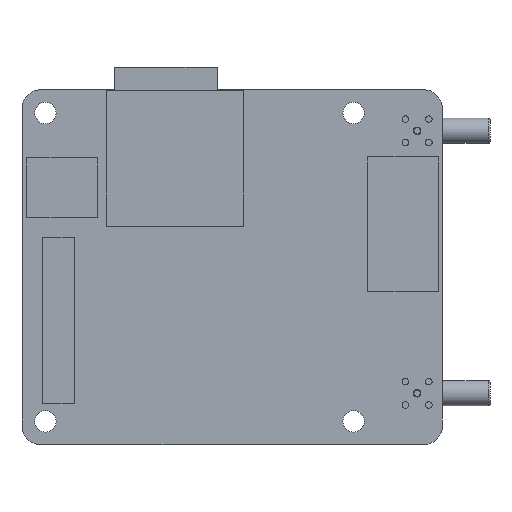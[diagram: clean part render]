
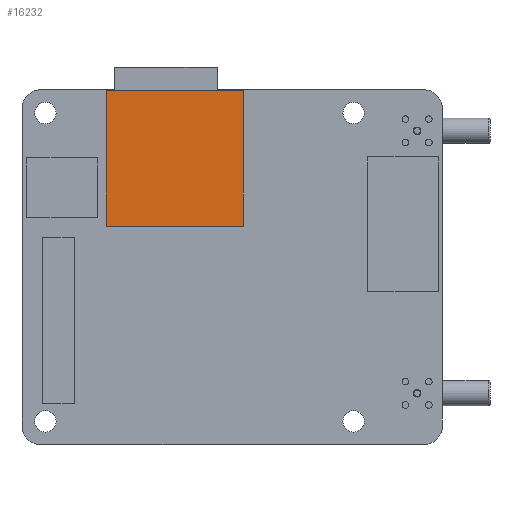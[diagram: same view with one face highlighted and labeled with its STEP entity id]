
A CAD part, front view. The second image highlights one B-rep face of the part: STEP entity #16232.
In plain terms, the highlighted planar face has unit normal (0, -1, 0).
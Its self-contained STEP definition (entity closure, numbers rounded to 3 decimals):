
#12137=DIRECTION('',(-1.,0.,0.));
#12138=VECTOR('',#12137,14.7);
#12139=CARTESIAN_POINT('',(10.,-1.8,-18.9));
#12140=LINE('',#12139,#12138);
#12141=DIRECTION('',(0.,0.,1.));
#12142=VECTOR('',#12141,14.5);
#12143=CARTESIAN_POINT('',(-4.7,-1.8,-18.9));
#12144=LINE('',#12143,#12142);
#12145=DIRECTION('',(1.,0.,0.));
#12146=VECTOR('',#12145,14.7);
#12147=CARTESIAN_POINT('',(-4.7,-1.8,-4.4));
#12148=LINE('',#12147,#12146);
#12149=DIRECTION('',(0.,0.,-1.));
#12150=VECTOR('',#12149,14.5);
#12151=CARTESIAN_POINT('',(10.,-1.8,-4.4));
#12152=LINE('',#12151,#12150);
#13057=CARTESIAN_POINT('',(-4.7,-1.8,-18.9));
#13058=VERTEX_POINT('',#13057);
#13059=CARTESIAN_POINT('',(10.,-1.8,-18.9));
#13060=VERTEX_POINT('',#13059);
#13069=CARTESIAN_POINT('',(-4.7,-1.8,-4.4));
#13070=VERTEX_POINT('',#13069);
#13071=CARTESIAN_POINT('',(10.,-1.8,-4.4));
#13072=VERTEX_POINT('',#13071);
#16221=CARTESIAN_POINT('',(0.,-1.8,0.));
#16222=DIRECTION('',(0.,-1.,0.));
#16223=DIRECTION('',(0.,0.,1.));
#16224=AXIS2_PLACEMENT_3D('',#16221,#16222,#16223);
#16225=PLANE('',#16224);
#16226=ORIENTED_EDGE('',*,*,#16163,.T.);
#16227=ORIENTED_EDGE('',*,*,#16188,.T.);
#16228=ORIENTED_EDGE('',*,*,#16202,.T.);
#16229=ORIENTED_EDGE('',*,*,#16215,.T.);
#16230=EDGE_LOOP('',(#16226,#16227,#16228,#16229));
#16231=FACE_OUTER_BOUND('',#16230,.F.);
#16232=ADVANCED_FACE('',(#16231),#16225,.T.);
#16163=EDGE_CURVE('',#13060,#13058,#12140,.T.);
#16188=EDGE_CURVE('',#13058,#13070,#12144,.T.);
#16202=EDGE_CURVE('',#13070,#13072,#12148,.T.);
#16215=EDGE_CURVE('',#13072,#13060,#12152,.T.);
